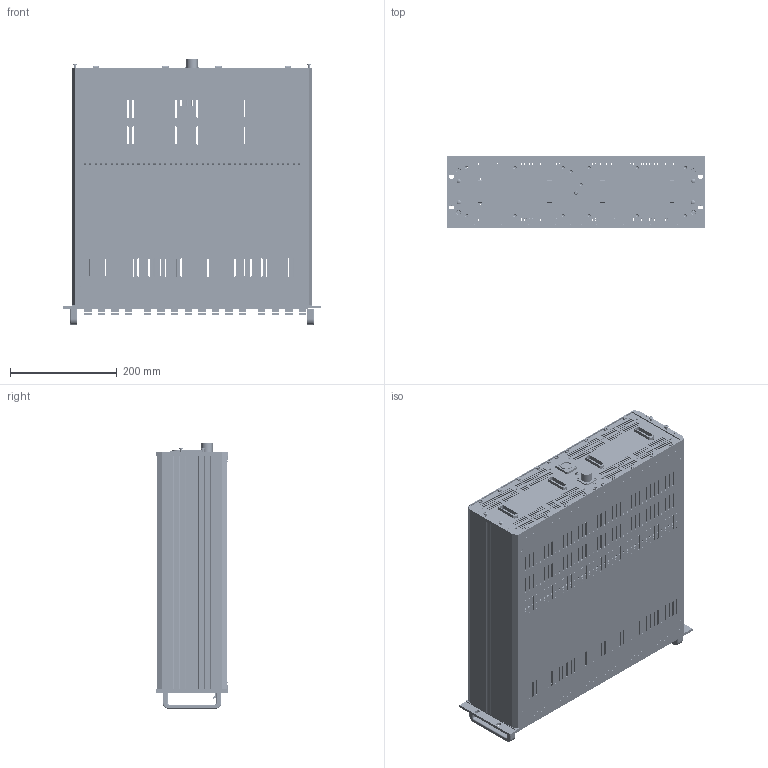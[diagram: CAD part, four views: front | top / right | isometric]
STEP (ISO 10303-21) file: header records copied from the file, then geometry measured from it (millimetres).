
FILE_DESCRIPTION (( 'STEP AP203' ), '1' );
FILE_NAME ('E82.C256K-I.STEP', '2025-07-16T08:00:57', ( 'China' ), ( 'Home' ), 'SwSTEP 2.0', 'SolidWorks 2016', '' );
FILE_SCHEMA (( 'CONFIG_CONTROL_DESIGN' ));
Products named in the file (1): E82.C256K-I
Bounding box: 482.2 x 134 x 496.65 mm (x, y, z)
Surface area: 2495875.7 mm2 (no closed solid volume)
Topology: 0 solids, 1225 shells, 12602 faces, 45960 edges, 34497 vertices
Faces by surface type: plane 7805, cylinder 4051, cone 348, bspline 348, torus 30, sphere 20
Entity records: 518305 total; most frequent: CARTESIAN_POINT 128481, DIRECTION 78487, ORIENTED_EDGE 71092, EDGE_CURVE 45902, VERTEX_POINT 34495, LINE 32571, VECTOR 32571, AXIS2_PLACEMENT_3D 22958
